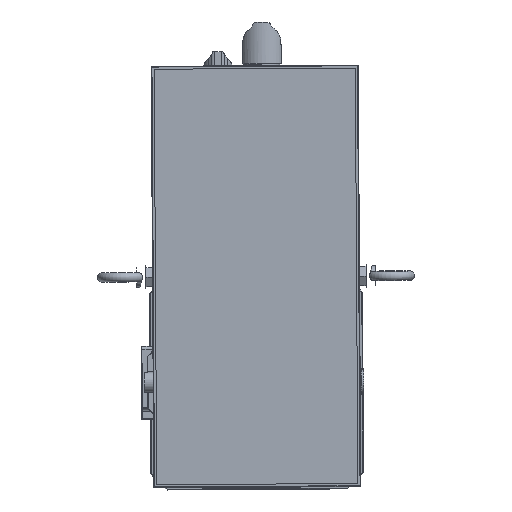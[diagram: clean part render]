
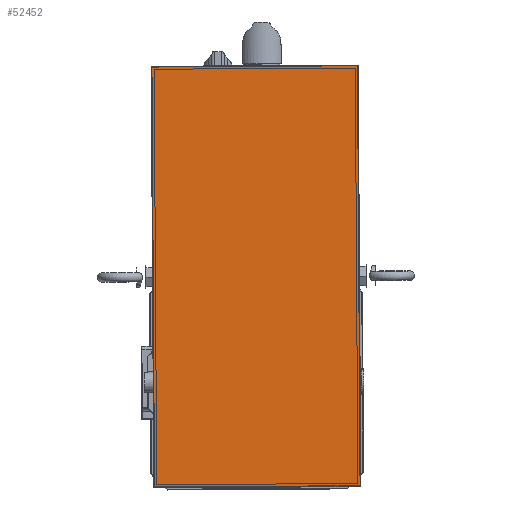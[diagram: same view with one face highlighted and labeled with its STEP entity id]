
A CAD part, top view. The second image highlights one B-rep face of the part: STEP entity #52452.
In plain terms, the highlighted planar face has unit normal (0, 0, 1).
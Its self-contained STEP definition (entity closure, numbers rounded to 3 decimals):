
#2711=PLANE('',#57185);
#7880=FACE_OUTER_BOUND('',#11025,.T.);
#11025=EDGE_LOOP('',(#44691,#44692,#44693,#44694));
#17352=LINE('',#98283,#21053);
#17353=LINE('',#98285,#21054);
#17354=LINE('',#98287,#21055);
#17355=LINE('',#98288,#21056);
#21053=VECTOR('',#68997,10.);
#21054=VECTOR('',#68998,10.);
#21055=VECTOR('',#68999,10.);
#21056=VECTOR('',#69000,10.);
#25752=VERTEX_POINT('',#98281);
#25753=VERTEX_POINT('',#98282);
#25754=VERTEX_POINT('',#98284);
#25755=VERTEX_POINT('',#98286);
#32376=EDGE_CURVE('',#25752,#25753,#17352,.T.);
#32377=EDGE_CURVE('',#25754,#25752,#17353,.T.);
#32378=EDGE_CURVE('',#25755,#25754,#17354,.T.);
#32379=EDGE_CURVE('',#25753,#25755,#17355,.T.);
#44691=ORIENTED_EDGE('',*,*,#32376,.F.);
#44692=ORIENTED_EDGE('',*,*,#32377,.F.);
#44693=ORIENTED_EDGE('',*,*,#32378,.F.);
#44694=ORIENTED_EDGE('',*,*,#32379,.F.);
#52452=ADVANCED_FACE('',(#7880),#2711,.T.);
#57185=AXIS2_PLACEMENT_3D('',#98280,#68995,#68996);
#68995=DIRECTION('center_axis',(0.,0.,
1.));
#68996=DIRECTION('ref_axis',(0.006,-1.,0.));
#68997=DIRECTION('',(-0.006,1.,0.));
#68998=DIRECTION('',(-1.,-0.006,0.));
#68999=DIRECTION('',(0.006,-1.,0.));
#69000=DIRECTION('',(1.,0.006,0.));
#98280=CARTESIAN_POINT('Origin',(68.928,-69.579,661.));
#98281=CARTESIAN_POINT('',(-69.56,-71.928,661.));
#98282=CARTESIAN_POINT('',(-71.314,214.067,661.));
#98283=CARTESIAN_POINT('',(-69.569,-70.428,661.));
#98284=CARTESIAN_POINT('',(70.437,-71.069,661.));
#98285=CARTESIAN_POINT('',(34.688,-71.289,661.));
#98286=CARTESIAN_POINT('',(68.683,214.925,661.));
#98287=CARTESIAN_POINT('',(70.428,-69.569,661.));
#98288=CARTESIAN_POINT('',(32.934,214.706,661.));
